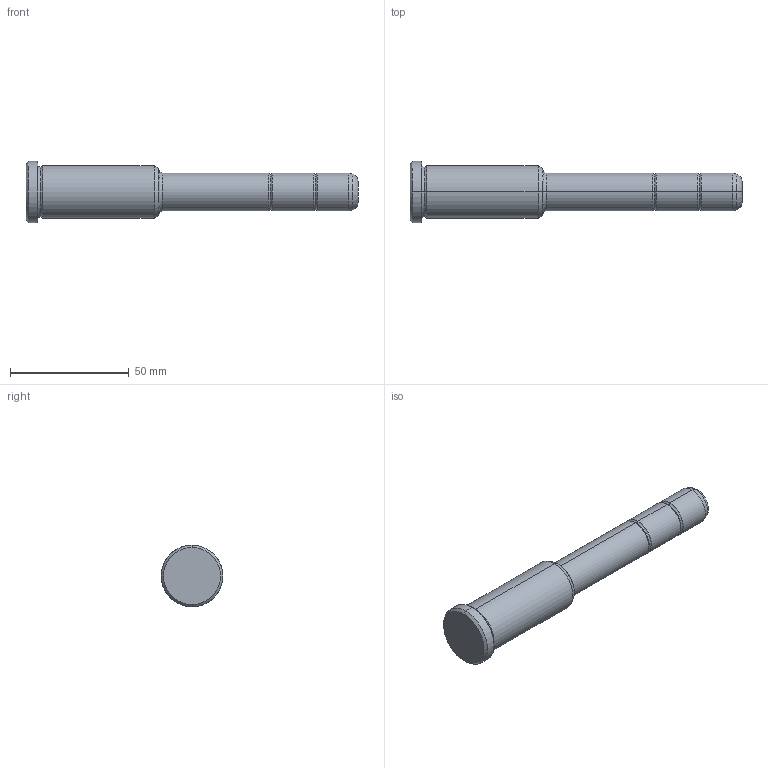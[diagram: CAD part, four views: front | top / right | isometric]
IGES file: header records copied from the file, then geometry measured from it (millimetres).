
Start section: START RECORD GO HERE.
Global section: file name: 351-16X56X140.igs; native system: DASSAULT SYSTEMES CATIA V5 R20 - www.3ds.com; preprocessor: CATIA Version 5 Release 20 ; author: Utente; organization: NB04-ASUS; date: 20210818.135001; units: millimetre
Bounding box: 140 x 26 x 26 mm (x, y, z)
Surface area: 9038.8 mm2 (no closed solid volume)
Topology: 0 solids, 0 shells, 36 faces, 204 edges, 204 vertices
Faces by surface type: revolution 32, plane 4
